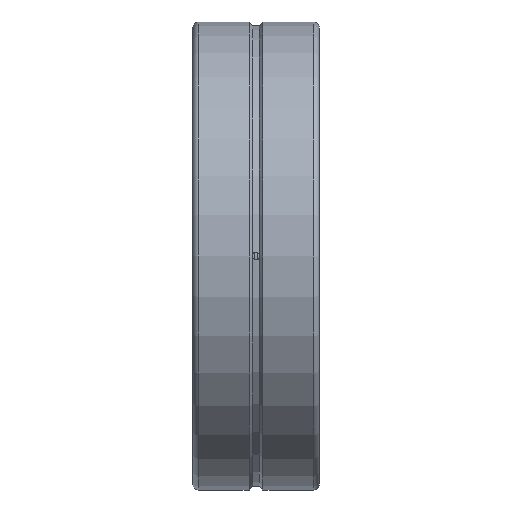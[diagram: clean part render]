
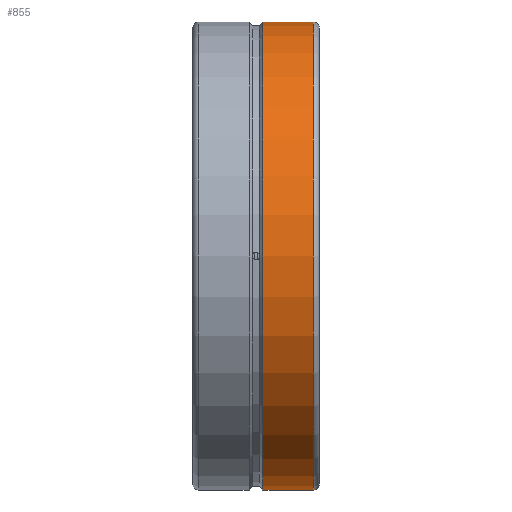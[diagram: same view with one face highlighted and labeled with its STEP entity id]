
A CAD part, front view. The second image highlights one B-rep face of the part: STEP entity #855.
In plain terms, the highlighted cylindrical face has radius 42.5 mm (diameter 85 mm), a full revolution.
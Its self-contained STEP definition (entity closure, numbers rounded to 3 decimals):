
#212=CIRCLE('',#925,42.5);
#219=CIRCLE('',#936,42.5);
#285=FACE_BOUND('',#411,.T.);
#339=FACE_OUTER_BOUND('',#410,.T.);
#410=EDGE_LOOP('',(#726));
#411=EDGE_LOOP('',(#727));
#536=VERTEX_POINT('',#1804);
#543=VERTEX_POINT('',#1855);
#612=EDGE_CURVE('',#536,#536,#212,.T.);
#621=EDGE_CURVE('',#543,#543,#219,.T.);
#726=ORIENTED_EDGE('',*,*,#612,.T.);
#727=ORIENTED_EDGE('',*,*,#621,.F.);
#834=CYLINDRICAL_SURFACE('',#937,42.5);
#855=ADVANCED_FACE('',(#339,#285),#834,.T.);
#925=AXIS2_PLACEMENT_3D('',#1805,#1096,#1097);
#936=AXIS2_PLACEMENT_3D('',#1856,#1118,#1119);
#937=AXIS2_PLACEMENT_3D('',#1857,#1120,#1121);
#1096=DIRECTION('center_axis',(1.,0.,0.));
#1097=DIRECTION('ref_axis',(0.,0.,-1.));
#1118=DIRECTION('center_axis',(1.,0.,0.));
#1119=DIRECTION('ref_axis',(0.,-1.,0.));
#1120=DIRECTION('center_axis',(1.,0.,0.));
#1121=DIRECTION('ref_axis',(0.,1.,0.));
#1804=CARTESIAN_POINT('',(1.265,42.5,0.));
#1805=CARTESIAN_POINT('Origin',(1.265,0.,0.));
#1855=CARTESIAN_POINT('',(10.4,42.5,0.));
#1856=CARTESIAN_POINT('Origin',(10.4,0.,0.));
#1857=CARTESIAN_POINT('Origin',(6.383,0.,0.));
